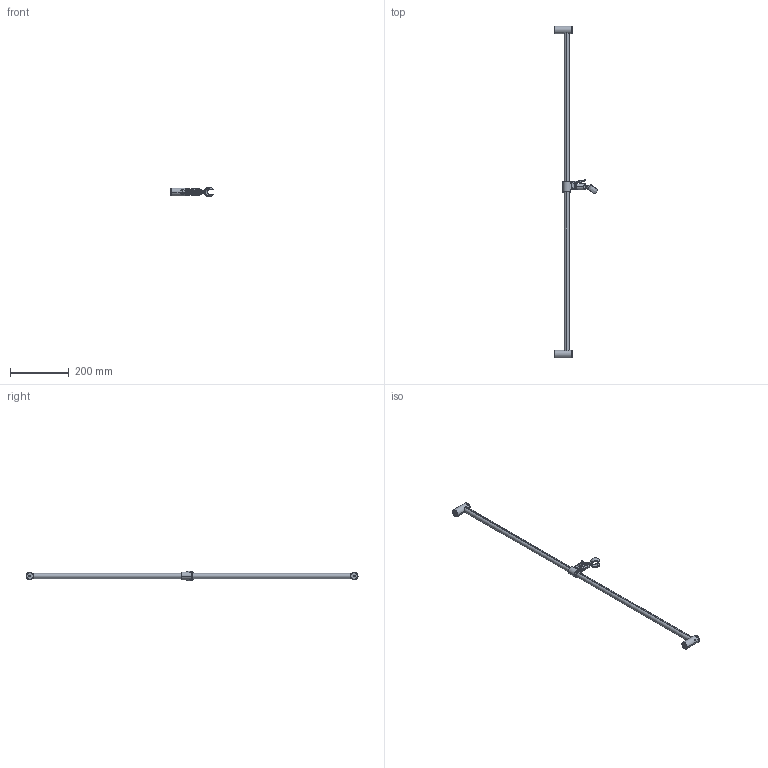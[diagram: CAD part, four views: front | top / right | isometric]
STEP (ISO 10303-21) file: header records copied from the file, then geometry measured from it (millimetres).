
FILE_DESCRIPTION((''),'2;1');
FILE_NAME('122529_ASM','2020-03-16T15:05:01',('LF994'),(''),'CREO PARAMETRIC BY PTC INC, 2018500','CREO PARAMETRIC BY PTC INC, 2018500','');
FILE_SCHEMA(('CONFIG_CONTROL_DESIGN'));
Length unit declared in the file: millimetre
Products named in the file (19): 603896; 605311; 603897; 605224; 605229; 603902; 605236; 605234; 605223_20_6; 605225_20_8; 605233; 605218; 602107; 605228; 605227; 605240; 605246; 508351_ASM; 122529_ASM
Assembly tree (20 placements, depth 3):
  122529_ASM
    603896  x2
    605311
    603897  x2
    508351_ASM
      605224
      605229
      603902
      605236
      605234
      605223_20_6
      605225_20_8
      605233
      605218
      602107
      605228
      605227
      605240
      605246
Bounding box: 144.37 x 1126 x 33.5 mm (x, y, z)
Volume: 129332.7 mm3; surface area: 168028.6 mm2
Topology: 19 solids, 19 shells, 739 faces, 1836 edges, 1131 vertices
Faces by surface type: cylinder 205, bspline 160, plane 142, cone 117, torus 99, sphere 16
Entity records: 29807 total; most frequent: CARTESIAN_POINT 17317, ORIENTED_EDGE 2730, DIRECTION 2275, EDGE_CURVE 1365, AXIS2_PLACEMENT_3D 971, VERTEX_POINT 834, EDGE_LOOP 617, FACE_OUTER_BOUND 574
